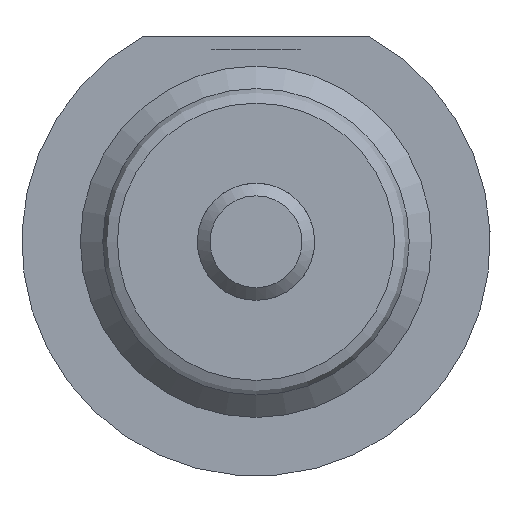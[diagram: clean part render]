
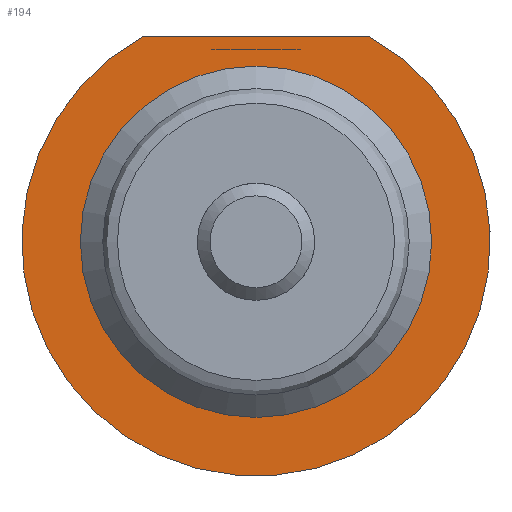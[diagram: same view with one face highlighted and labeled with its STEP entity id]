
A CAD part, left-side view. The second image highlights one B-rep face of the part: STEP entity #194.
In plain terms, the highlighted planar face has unit normal (-1, 0, 0).
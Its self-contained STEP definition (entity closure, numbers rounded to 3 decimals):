
#194 = ADVANCED_FACE( '', ( #315, #316 ), #317, .F. );
#315 = FACE_OUTER_BOUND( '', #507, .T. );
#316 = FACE_BOUND( '', #508, .T. );
#317 = PLANE( '', #509 );
#507 = EDGE_LOOP( '', ( #765, #766 ) );
#508 = EDGE_LOOP( '', ( #767 ) );
#509 = AXIS2_PLACEMENT_3D( '', #768, #769, #770 );
#765 = ORIENTED_EDGE( '', *, *, #1086, .F. );
#766 = ORIENTED_EDGE( '', *, *, #1087, .T. );
#767 = ORIENTED_EDGE( '', *, *, #1084, .T. );
#768 = CARTESIAN_POINT( '', ( 0., 6., 0. ) );
#769 = DIRECTION( '', ( 1., 0., 0. ) );
#770 = DIRECTION( '', ( 0., 0., -1. ) );
#1084 = EDGE_CURVE( '', #1220, #1220, #1221, .T. );
#1086 = EDGE_CURVE( '', #1224, #1225, #1226, .T. );
#1087 = EDGE_CURVE( '', #1224, #1225, #1227, .T. );
#1220 = VERTEX_POINT( '', #1499 );
#1221 = CIRCLE( '', #1500, 6. );
#1224 = VERTEX_POINT( '', #1503 );
#1225 = VERTEX_POINT( '', #1504 );
#1226 = CIRCLE( '', #1505, 8. );
#1227 = LINE( '', #1506, #1507 );
#1499 = CARTESIAN_POINT( '', ( 0., 0., -6. ) );
#1500 = AXIS2_PLACEMENT_3D( '', #1730, #1731, #1732 );
#1503 = CARTESIAN_POINT( '', ( 0., -3.873, 7. ) );
#1504 = CARTESIAN_POINT( '', ( 0., 3.873, 7. ) );
#1505 = AXIS2_PLACEMENT_3D( '', #1736, #1737, #1738 );
#1506 = CARTESIAN_POINT( '', ( 0., -18.6, 7. ) );
#1507 = VECTOR( '', #1739, 1000. );
#1730 = CARTESIAN_POINT( '', ( 0., 0., 0. ) );
#1731 = DIRECTION( '', ( 1., 0., 0. ) );
#1732 = DIRECTION( '', ( 0., 0., -1. ) );
#1736 = CARTESIAN_POINT( '', ( 0., 0., 0. ) );
#1737 = DIRECTION( '', ( 1., 0., 0. ) );
#1738 = DIRECTION( '', ( 0., 0., -1. ) );
#1739 = DIRECTION( '', ( 0., 1., 0. ) );
